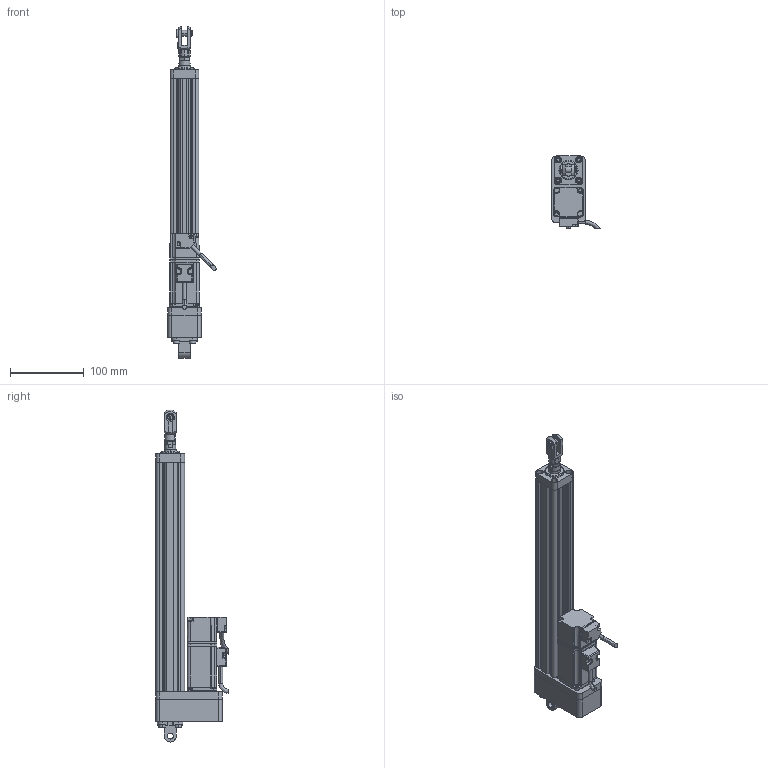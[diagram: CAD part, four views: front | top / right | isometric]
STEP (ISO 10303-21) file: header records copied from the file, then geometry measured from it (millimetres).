
FILE_DESCRIPTION (( 'STEP AP214' ), '1' );
FILE_NAME ('039-S250-D02-B-M5-C3-2.STEP', '2021-03-02T05:15:32', ( '' ), ( '' ), 'SwSTEP 2.0', 'SolidWorks 2018', '' );
FILE_SCHEMA (( 'AUTOMOTIVE_DESIGN' ));
Length unit declared in the file: millimetre
Products named in the file (10): GB／T6174-2000六角薄螺母无倒角M8; CMC039-DT; ECMA-CX0401ES-40框號系列機種-100W低慣量系列; 039-S250-D02-B-M5-C3-2; F-ACE20CA_ACE_; CMC039-GT; F-MA20Y; CMC039-LJB; CMC039-FL; CMC039-HXT
Assembly tree (9 placements, depth 2):
  039-S250-D02-B-M5-C3-2
    CMC039-GT
    CMC039-LJB
    CMC039-FL
    CMC039-DT
    ECMA-CX0401ES-40框號系列機種-100W低慣量系列
    CMC039-HXT
    F-ACE20CA_ACE_
    F-MA20Y
    GB／T6174-2000六角薄螺母无倒角M8
Bounding box: 65.33 x 97.89 x 449 mm (x, y, z)
Volume: 557278.7 mm3; surface area: 183391.8 mm2
Topology: 9 solids, 17 shells, 869 faces, 2270 edges, 1428 vertices
Faces by surface type: plane 355, cylinder 349, bspline 96, cone 69
Entity records: 33330 total; most frequent: CARTESIAN_POINT 12484, ORIENTED_EDGE 4474, DIRECTION 3863, EDGE_CURVE 2237, VERTEX_POINT 1428, AXIS2_PLACEMENT_3D 1376, VECTOR 1111, LINE 1111
